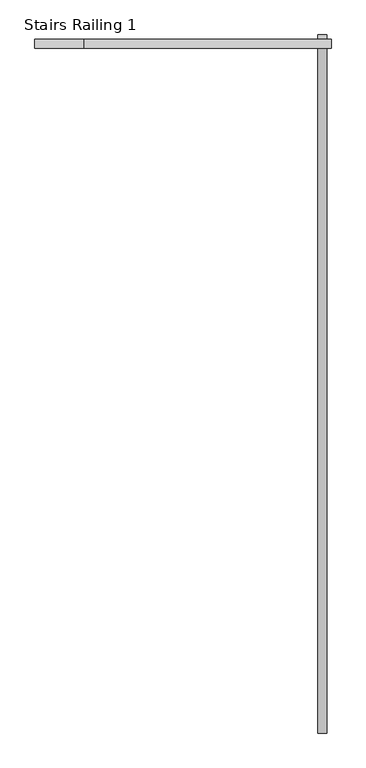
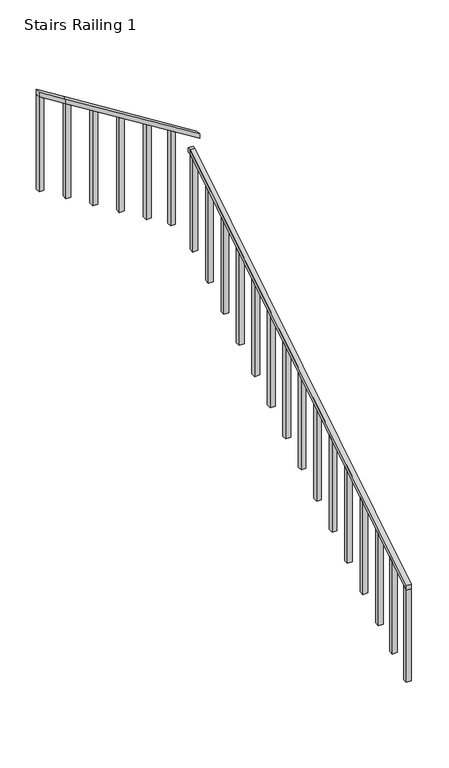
"""IFC4 building model written with IfcOpenShell, lengths in millimetres: railing geometry, Stairs Railing 1."""

from ifc_helpers import new_model, si_unit, frame, origin, place, context, project, spatial, polyline, outline, extrude, source, transform, mapped, element, save


def stairs_railing_1_2e6ad486(model_context):
    return source(origin(), model_context, "Body", "SweptSolid", [
        extrude(outline(polyline([(-5629.0521901, 3679.3714286), (-5629.0521901, 3628.5714286), (-9540.6521901, 1190.1714286), (-9540.6521901, 1240.9714286), (-5629.0521901, 3679.3714286)])), frame((24330.0157496, 0.0, 0.0), z_axis=(1.0, 0.0, 0.0), x_axis=(0.0, 1.0, 0.0)), (0.0, 0.0, 1.0), 50.8),
        extrude(outline(polyline([(-9489.8521901, 1221.838961), (-9489.8521901, 174.1714286), (-9540.6521901, 174.1714286), (-9540.6521901, 1190.1714286), (-9489.8521901, 1221.838961)])), frame((24330.0157496, 0.0, 0.0), z_axis=(1.0, 0.0, 0.0), x_axis=(0.0, 1.0, 0.0)), (0.0, 0.0, 1.0), 50.8),
        extrude(outline(polyline([(-9235.8521901, 1380.1766234), (-9235.8521901, 332.5090909), (-9286.6521901, 332.5090909), (-9286.6521901, 1348.5090909), (-9235.8521901, 1380.1766234)])), frame((24330.0157496, 0.0, 0.0), z_axis=(1.0, 0.0, 0.0), x_axis=(0.0, 1.0, 0.0)), (0.0, 0.0, 1.0), 50.8),
        extrude(outline(polyline([(-8981.8521901, 1538.5142857), (-8981.8521901, 490.8467532), (-9032.6521901, 490.8467532), (-9032.6521901, 1506.8467532), (-8981.8521901, 1538.5142857)])), frame((24330.0157496, 0.0, 0.0), z_axis=(1.0, 0.0, 0.0), x_axis=(0.0, 1.0, 0.0)), (0.0, 0.0, 1.0), 50.8),
        extrude(outline(polyline([(-8702.4521901, 1712.6857143), (-8702.4521901, 665.0181818), (-8753.2521901, 665.0181818), (-8753.2521901, 1681.0181818), (-8702.4521901, 1712.6857143)])), frame((24330.0157496, 0.0, 0.0), z_axis=(1.0, 0.0, 0.0), x_axis=(0.0, 1.0, 0.0)), (0.0, 0.0, 1.0), 50.8),
        extrude(outline(polyline([(-8423.0521901, 1886.8571429), (-8423.0521901, 839.1896104), (-8473.8521901, 839.1896104), (-8473.8521901, 1855.1896104), (-8423.0521901, 1886.8571429)])), frame((24330.0157496, 0.0, 0.0), z_axis=(1.0, 0.0, 0.0), x_axis=(0.0, 1.0, 0.0)), (0.0, 0.0, 1.0), 50.8),
        extrude(outline(polyline([(-8143.6521901, 2061.0285714), (-8143.6521901, 1013.361039), (-8194.4521901, 1013.361039), (-8194.4521901, 2029.361039), (-8143.6521901, 2061.0285714)])), frame((24330.0157496, 0.0, 0.0), z_axis=(1.0, 0.0, 0.0), x_axis=(0.0, 1.0, 0.0)), (0.0, 0.0, 1.0), 50.8),
        extrude(outline(polyline([(-7864.2521901, 2235.2), (-7864.2521901, 1187.5324675), (-7915.0521901, 1187.5324675), (-7915.0521901, 2203.5324675), (-7864.2521901, 2235.2)])), frame((24330.0157496, 0.0, 0.0), z_axis=(1.0, 0.0, 0.0), x_axis=(0.0, 1.0, 0.0)), (0.0, 0.0, 1.0), 50.8),
        extrude(outline(polyline([(-7584.8521901, 2409.3714286), (-7584.8521901, 1361.7038961), (-7635.6521901, 1361.7038961), (-7635.6521901, 2377.7038961), (-7584.8521901, 2409.3714286)])), frame((24330.0157496, 0.0, 0.0), z_axis=(1.0, 0.0, 0.0), x_axis=(0.0, 1.0, 0.0)), (0.0, 0.0, 1.0), 50.8),
        extrude(outline(polyline([(-7305.4521901, 2583.5428571), (-7305.4521901, 1535.8753247), (-7356.2521901, 1535.8753247), (-7356.2521901, 2551.8753247), (-7305.4521901, 2583.5428571)])), frame((24330.0157496, 0.0, 0.0), z_axis=(1.0, 0.0, 0.0), x_axis=(0.0, 1.0, 0.0)), (0.0, 0.0, 1.0), 50.8),
        extrude(outline(polyline([(-7026.0521901, 2757.7142857), (-7026.0521901, 1710.0467532), (-7076.8521901, 1710.0467532), (-7076.8521901, 2726.0467532), (-7026.0521901, 2757.7142857)])), frame((24330.0157496, 0.0, 0.0), z_axis=(1.0, 0.0, 0.0), x_axis=(0.0, 1.0, 0.0)), (0.0, 0.0, 1.0), 50.8),
        extrude(outline(polyline([(-6746.6521901, 2931.8857143), (-6746.6521901, 1884.2181818), (-6797.4521901, 1884.2181818), (-6797.4521901, 2900.2181818), (-6746.6521901, 2931.8857143)])), frame((24330.0157496, 0.0, 0.0), z_axis=(1.0, 0.0, 0.0), x_axis=(0.0, 1.0, 0.0)), (0.0, 0.0, 1.0), 50.8),
        extrude(outline(polyline([(-6467.2521901, 3106.0571429), (-6467.2521901, 2058.3896104), (-6518.0521901, 2058.3896104), (-6518.0521901, 3074.3896104), (-6467.2521901, 3106.0571429)])), frame((24330.0157496, 0.0, 0.0), z_axis=(1.0, 0.0, 0.0), x_axis=(0.0, 1.0, 0.0)), (0.0, 0.0, 1.0), 50.8),
        extrude(outline(polyline([(-6187.8521901, 3280.2285714), (-6187.8521901, 2232.561039), (-6238.6521901, 2232.561039), (-6238.6521901, 3248.561039), (-6187.8521901, 3280.2285714)])), frame((24330.0157496, 0.0, 0.0), z_axis=(1.0, 0.0, 0.0), x_axis=(0.0, 1.0, 0.0)), (0.0, 0.0, 1.0), 50.8),
        extrude(outline(polyline([(-5908.4521901, 3454.4), (-5908.4521901, 2406.7324675), (-5959.2521901, 2406.7324675), (-5959.2521901, 3422.7324675), (-5908.4521901, 3454.4)])), frame((24330.0157496, 0.0, 0.0), z_axis=(1.0, 0.0, 0.0), x_axis=(0.0, 1.0, 0.0)), (0.0, 0.0, 1.0), 50.8),
        extrude(outline(polyline([(-5629.0521901, 3628.5714286), (-5629.0521901, 2580.9038961), (-5679.8521901, 2580.9038961), (-5679.8521901, 3596.9038961), (-5629.0521901, 3628.5714286)])), frame((24330.0157496, 0.0, 0.0), z_axis=(1.0, 0.0, 0.0), x_axis=(0.0, 1.0, 0.0)), (0.0, 0.0, 1.0), 50.8),
        extrude(outline(polyline([(24330.0157496, -5595.4900732), (24380.8157496, -5595.4900732), (24380.8157496, -5629.0521901), (24330.0157496, -5629.0521901), (24330.0157496, -5595.4900732)])), frame((0.0, 0.0, 3628.5714286), z_axis=(0.0, 0.0, 1.0), x_axis=(1.0, 0.0, 0.0)), (0.0, 0.0, 1.0), 50.8),
        extrude(outline(polyline([(4724.4, 23009.2157496), (4673.6, 23009.2157496), (3802.7428571, 24406.2157496), (3853.5428571, 24406.2157496), (4724.4, 23009.2157496)])), frame((0.0, -5671.6900732, 0.0), z_axis=(0.0, 1.0, 0.0), x_axis=(0.0, 0.0, 1.0)), (0.0, 0.0, 1.0), 50.8),
        extrude(outline(polyline([(3992.7480519, 24101.4157496), (2945.0805195, 24101.4157496), (2945.0805195, 24152.2157496), (3961.0805195, 24152.2157496), (3992.7480519, 24101.4157496)])), frame((0.0, -5671.6900732, 0.0), z_axis=(0.0, 1.0, 0.0), x_axis=(0.0, 0.0, 1.0)), (0.0, 0.0, 1.0), 50.8),
        extrude(outline(polyline([(4151.0857143, 23847.4157496), (3103.4181818, 23847.4157496), (3103.4181818, 23898.2157496), (4119.4181818, 23898.2157496), (4151.0857143, 23847.4157496)])), frame((0.0, -5671.6900732, 0.0), z_axis=(0.0, 1.0, 0.0), x_axis=(0.0, 0.0, 1.0)), (0.0, 0.0, 1.0), 50.8),
        extrude(outline(polyline([(4325.2571429, 23568.0157496), (3277.5896104, 23568.0157496), (3277.5896104, 23618.8157496), (4293.5896104, 23618.8157496), (4325.2571429, 23568.0157496)])), frame((0.0, -5671.6900732, 0.0), z_axis=(0.0, 1.0, 0.0), x_axis=(0.0, 0.0, 1.0)), (0.0, 0.0, 1.0), 50.8),
        extrude(outline(polyline([(4499.4285714, 23288.6157496), (3451.761039, 23288.6157496), (3451.761039, 23339.4157496), (4467.761039, 23339.4157496), (4499.4285714, 23288.6157496)])), frame((0.0, -5671.6900732, 0.0), z_axis=(0.0, 1.0, 0.0), x_axis=(0.0, 0.0, 1.0)), (0.0, 0.0, 1.0), 50.8),
        extrude(outline(polyline([(4673.6, 23009.2157496), (3625.9324675, 23009.2157496), (3625.9324675, 23060.0157496), (4641.9324675, 23060.0157496), (4673.6, 23009.2157496)])), frame((0.0, -5671.6900732, 0.0), z_axis=(0.0, 1.0, 0.0), x_axis=(0.0, 0.0, 1.0)), (0.0, 0.0, 1.0), 50.8),
        extrude(outline(polyline([(4898.5714286, 22729.8157496), (4847.7714286, 22729.8157496), (4673.6, 23009.2157496), (4724.4, 23009.2157496), (4898.5714286, 22729.8157496)])), frame((0.0, -5671.6900732, 0.0), z_axis=(0.0, 1.0, 0.0), x_axis=(0.0, 0.0, 1.0)), (0.0, 0.0, 1.0), 50.8),
        extrude(outline(polyline([(4847.7714286, 22729.8157496), (3800.1038961, 22729.8157496), (3800.1038961, 22780.6157496), (4816.1038961, 22780.6157496), (4847.7714286, 22729.8157496)])), frame((0.0, -5671.6900732, 0.0), z_axis=(0.0, 1.0, 0.0), x_axis=(0.0, 0.0, 1.0)), (0.0, 0.0, 1.0), 50.8),
    ])


if __name__ == "__main__":
    model = new_model("IFC4")
    model_context = context("Model", 3, world=origin())
    ifc_project = project(units=[si_unit("LENGTHUNIT", "METRE", prefix="MILLI")], contexts=[model_context])
    site = spatial("IfcSite", under=ifc_project)
    building = spatial("IfcBuilding", under=site)
    placement = place(None, origin())
    stairs_railing_1_shape = stairs_railing_1_2e6ad486(model_context)
    element("IfcRailing", 1, ObjectType="Stairs Railing 1", at=placement, inside=building, context=model_context, shape_type="MappedRepresentation", body=[
        mapped(stairs_railing_1_shape, transform((0.0, 0.0, 0.0), x_axis=(1.0, 0.0, 0.0), y_axis=(0.0, 1.0, 0.0), z_axis=(0.0, 0.0, 1.0))),
    ])
    save(model, "model.ifc")
